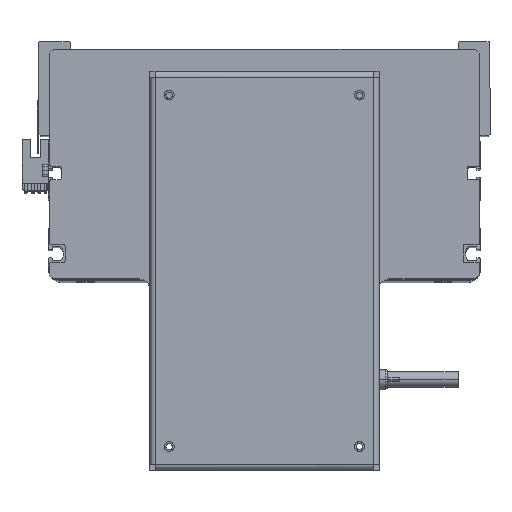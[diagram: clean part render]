
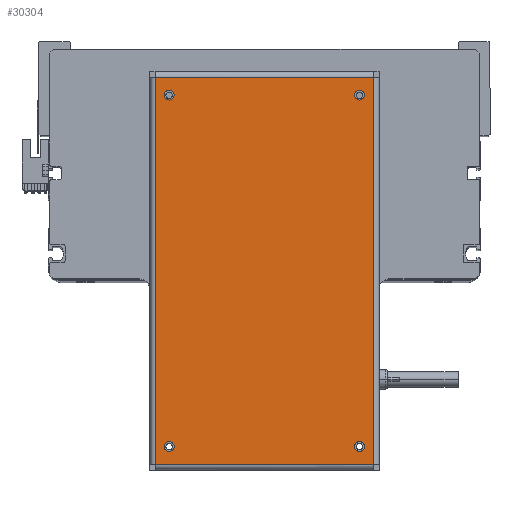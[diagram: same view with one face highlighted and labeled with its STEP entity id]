
A CAD part, top view. The second image highlights one B-rep face of the part: STEP entity #30304.
In plain terms, the highlighted planar face has unit normal (0, 0, 1).
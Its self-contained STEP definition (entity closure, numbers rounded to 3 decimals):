
#438 = CARTESIAN_POINT ( 'NONE',  ( -89.55, -48.5, 0. ) ) ;
#569 = DIRECTION ( 'NONE',  ( 1., 0., 0. ) ) ;
#941 = DIRECTION ( 'NONE',  ( 1., 0., 0. ) ) ;
#1355 = CARTESIAN_POINT ( 'NONE',  ( 92.05, 48.5, 0. ) ) ;
#1542 = AXIS2_PLACEMENT_3D ( 'NONE', #13001, #38543, #24557 ) ;
#1766 = DIRECTION ( 'NONE',  ( 0., 0., 1. ) ) ;
#1870 = VECTOR ( 'NONE', #30601, 1000. ) ;
#2101 = ORIENTED_EDGE ( 'NONE', *, *, #7409, .F. ) ;
#2266 = CARTESIAN_POINT ( 'NONE',  ( -98.65, 55.6, 0. ) ) ;
#2367 = VERTEX_POINT ( 'NONE', #31240 ) ;
#2865 = PLANE ( 'NONE',  #32657 ) ;
#3157 = VECTOR ( 'NONE', #25576, 1000. ) ;
#3476 = AXIS2_PLACEMENT_3D ( 'NONE', #438, #24480, #569 ) ;
#4455 = AXIS2_PLACEMENT_3D ( 'NONE', #17956, #17703, #26819 ) ;
#4508 = DIRECTION ( 'NONE',  ( 0., -1., 0. ) ) ;
#4653 = LINE ( 'NONE', #18474, #1870 ) ;
#4908 = CARTESIAN_POINT ( 'NONE',  ( 98.75, 55.6, 0. ) ) ;
#5305 = VERTEX_POINT ( 'NONE', #30563 ) ;
#5610 = DIRECTION ( 'NONE',  ( 0., 0., -1. ) ) ;
#5844 = CIRCLE ( 'NONE', #3476, 2.5 ) ;
#6203 = CIRCLE ( 'NONE', #21423, 2.5 ) ;
#6355 = CARTESIAN_POINT ( 'NONE',  ( -89.55, 48.5, 0. ) ) ;
#6391 = AXIS2_PLACEMENT_3D ( 'NONE', #34255, #21961, #941 ) ;
#7409 = EDGE_CURVE ( 'NONE', #9030, #38590, #6203, .T. ) ;
#7636 = EDGE_CURVE ( 'NONE', #5305, #2367, #37991, .T. ) ;
#7896 = CARTESIAN_POINT ( 'NONE',  ( 89.55, -48.5, 0. ) ) ;
#8235 = VERTEX_POINT ( 'NONE', #1355 ) ;
#8353 = VERTEX_POINT ( 'NONE', #19922 ) ;
#9030 = VERTEX_POINT ( 'NONE', #26060 ) ;
#10431 = DIRECTION ( 'NONE',  ( 0., 0., 1. ) ) ;
#10730 = ORIENTED_EDGE ( 'NONE', *, *, #22459, .T. ) ;
#10938 = EDGE_CURVE ( 'NONE', #11469, #26755, #26101, .T. ) ;
#11155 = ORIENTED_EDGE ( 'NONE', *, *, #25341, .F. ) ;
#11403 = DIRECTION ( 'NONE',  ( -1., 0., 0. ) ) ;
#11469 = VERTEX_POINT ( 'NONE', #23184 ) ;
#11575 = EDGE_CURVE ( 'NONE', #8353, #19239, #34962, .T. ) ;
#11630 = ORIENTED_EDGE ( 'NONE', *, *, #10938, .F. ) ;
#12772 = VECTOR ( 'NONE', #34076, 1000. ) ;
#12879 = ORIENTED_EDGE ( 'NONE', *, *, #21317, .T. ) ;
#13001 = CARTESIAN_POINT ( 'NONE',  ( 89.55, 48.5, 0. ) ) ;
#13106 = EDGE_LOOP ( 'NONE', ( #36856, #19647 ) ) ;
#15444 = FACE_BOUND ( 'NONE', #23154, .T. ) ;
#17364 = CARTESIAN_POINT ( 'NONE',  ( 87.05, 48.5, 0. ) ) ;
#17601 = AXIS2_PLACEMENT_3D ( 'NONE', #7896, #1766, #37817 ) ;
#17703 = DIRECTION ( 'NONE',  ( 0., 0., 1. ) ) ;
#17956 = CARTESIAN_POINT ( 'NONE',  ( -89.55, -48.5, 0. ) ) ;
#18119 = DIRECTION ( 'NONE',  ( 0., 0., 1. ) ) ;
#18474 = CARTESIAN_POINT ( 'NONE',  ( -98.75, -55.6, 0. ) ) ;
#18711 = CIRCLE ( 'NONE', #21856, 2.5 ) ;
#18787 = LINE ( 'NONE', #34854, #37486 ) ;
#19239 = VERTEX_POINT ( 'NONE', #38386 ) ;
#19647 = ORIENTED_EDGE ( 'NONE', *, *, #27962, .F. ) ;
#19922 = CARTESIAN_POINT ( 'NONE',  ( -87.05, -48.5, 0. ) ) ;
#20016 = LINE ( 'NONE', #4908, #3157 ) ;
#20533 = EDGE_CURVE ( 'NONE', #25843, #38532, #18787, .T. ) ;
#20764 = DIRECTION ( 'NONE',  ( 0., 0., 1. ) ) ;
#21317 = EDGE_CURVE ( 'NONE', #38532, #5305, #4653, .T. ) ;
#21423 = AXIS2_PLACEMENT_3D ( 'NONE', #6355, #20764, #32899 ) ;
#21564 = EDGE_CURVE ( 'NONE', #8235, #22611, #30361, .T. ) ;
#21856 = AXIS2_PLACEMENT_3D ( 'NONE', #35869, #18119, #33353 ) ;
#21961 = DIRECTION ( 'NONE',  ( 0., 0., 1. ) ) ;
#21987 = EDGE_CURVE ( 'NONE', #26755, #11469, #36445, .T. ) ;
#22406 = FACE_BOUND ( 'NONE', #36228, .T. ) ;
#22459 = EDGE_CURVE ( 'NONE', #2367, #25843, #20016, .T. ) ;
#22611 = VERTEX_POINT ( 'NONE', #17364 ) ;
#23154 = EDGE_LOOP ( 'NONE', ( #11155, #2101 ) ) ;
#23184 = CARTESIAN_POINT ( 'NONE',  ( 87.05, -48.5, 0. ) ) ;
#23851 = FACE_BOUND ( 'NONE', #23894, .T. ) ;
#23894 = EDGE_LOOP ( 'NONE', ( #29195, #26017 ) ) ;
#24480 = DIRECTION ( 'NONE',  ( 0., 0., 1. ) ) ;
#24557 = DIRECTION ( 'NONE',  ( 1., 0., 0. ) ) ;
#25196 = CARTESIAN_POINT ( 'NONE',  ( 98.65, -55.6, 0. ) ) ;
#25341 = EDGE_CURVE ( 'NONE', #38590, #9030, #38078, .T. ) ;
#25576 = DIRECTION ( 'NONE',  ( -1., 0., 0. ) ) ;
#25843 = VERTEX_POINT ( 'NONE', #2266 ) ;
#26017 = ORIENTED_EDGE ( 'NONE', *, *, #34178, .F. ) ;
#26060 = CARTESIAN_POINT ( 'NONE',  ( -92.05, 48.5, 0. ) ) ;
#26101 = CIRCLE ( 'NONE', #28002, 2.5 ) ;
#26755 = VERTEX_POINT ( 'NONE', #28850 ) ;
#26819 = DIRECTION ( 'NONE',  ( 1., 0., 0. ) ) ;
#27962 = EDGE_CURVE ( 'NONE', #22611, #8235, #18711, .T. ) ;
#28002 = AXIS2_PLACEMENT_3D ( 'NONE', #28756, #10431, #28880 ) ;
#28756 = CARTESIAN_POINT ( 'NONE',  ( 89.55, -48.5, 0. ) ) ;
#28791 = EDGE_LOOP ( 'NONE', ( #31887, #12879, #30926, #10730 ) ) ;
#28850 = CARTESIAN_POINT ( 'NONE',  ( 92.05, -48.5, 0. ) ) ;
#28880 = DIRECTION ( 'NONE',  ( 1., 0., 0. ) ) ;
#29024 = ORIENTED_EDGE ( 'NONE', *, *, #21987, .F. ) ;
#29195 = ORIENTED_EDGE ( 'NONE', *, *, #11575, .F. ) ;
#30304 = ADVANCED_FACE ( 'NONE', ( #23851, #15444, #22406, #30847, #37870 ), #2865, .F. ) ;
#30361 = CIRCLE ( 'NONE', #1542, 2.5 ) ;
#30563 = CARTESIAN_POINT ( 'NONE',  ( 98.65, -55.6, 0. ) ) ;
#30601 = DIRECTION ( 'NONE',  ( 1., 0., 0. ) ) ;
#30847 = FACE_BOUND ( 'NONE', #13106, .T. ) ;
#30926 = ORIENTED_EDGE ( 'NONE', *, *, #7636, .T. ) ;
#31240 = CARTESIAN_POINT ( 'NONE',  ( 98.65, 55.6, 0. ) ) ;
#31489 = CARTESIAN_POINT ( 'NONE',  ( -87.05, 48.5, 0. ) ) ;
#31887 = ORIENTED_EDGE ( 'NONE', *, *, #20533, .T. ) ;
#32657 = AXIS2_PLACEMENT_3D ( 'NONE', #38306, #5610, #11403 ) ;
#32899 = DIRECTION ( 'NONE',  ( 1., 0., 0. ) ) ;
#33353 = DIRECTION ( 'NONE',  ( 1., 0., 0. ) ) ;
#34076 = DIRECTION ( 'NONE',  ( 0., 1., 0. ) ) ;
#34178 = EDGE_CURVE ( 'NONE', #19239, #8353, #5844, .T. ) ;
#34255 = CARTESIAN_POINT ( 'NONE',  ( -89.55, 48.5, 0. ) ) ;
#34854 = CARTESIAN_POINT ( 'NONE',  ( -98.65, 55.6, 0. ) ) ;
#34962 = CIRCLE ( 'NONE', #4455, 2.5 ) ;
#35869 = CARTESIAN_POINT ( 'NONE',  ( 89.55, 48.5, 0. ) ) ;
#36228 = EDGE_LOOP ( 'NONE', ( #29024, #11630 ) ) ;
#36445 = CIRCLE ( 'NONE', #17601, 2.5 ) ;
#36856 = ORIENTED_EDGE ( 'NONE', *, *, #21564, .F. ) ;
#37486 = VECTOR ( 'NONE', #4508, 1000. ) ;
#37527 = CARTESIAN_POINT ( 'NONE',  ( -98.65, -55.6, 0. ) ) ;
#37817 = DIRECTION ( 'NONE',  ( 1., 0., 0. ) ) ;
#37870 = FACE_OUTER_BOUND ( 'NONE', #28791, .T. ) ;
#37991 = LINE ( 'NONE', #25196, #12772 ) ;
#38078 = CIRCLE ( 'NONE', #6391, 2.5 ) ;
#38306 = CARTESIAN_POINT ( 'NONE',  ( 98.75, 58.5, 0. ) ) ;
#38386 = CARTESIAN_POINT ( 'NONE',  ( -92.05, -48.5, 0. ) ) ;
#38532 = VERTEX_POINT ( 'NONE', #37527 ) ;
#38543 = DIRECTION ( 'NONE',  ( 0., 0., 1. ) ) ;
#38590 = VERTEX_POINT ( 'NONE', #31489 ) ;
